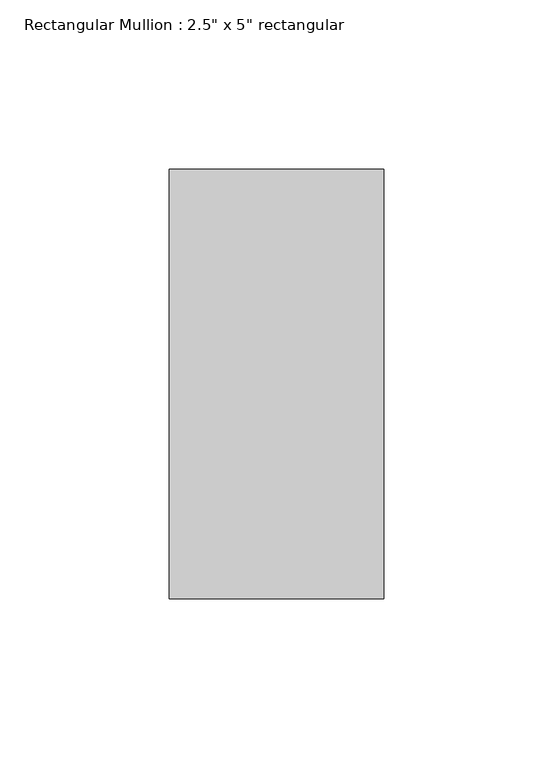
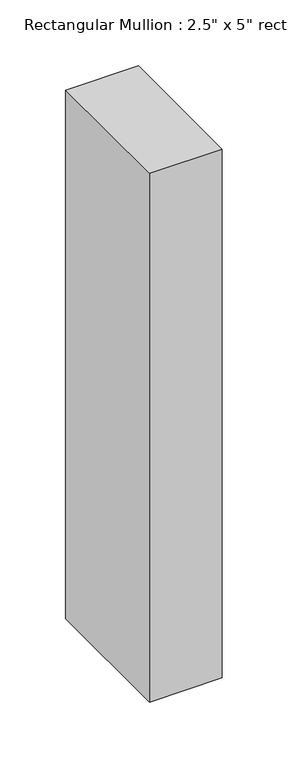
"""IFC4 building model written with IfcOpenShell, lengths in millimetres: member geometry."""

from ifc_helpers import new_model, si_unit, frame, origin, place, context, project, spatial, polyline, outline, extrude, source, transform, mapped, element, save


def member_757d0d80(model_context):
    return source(origin(), model_context, "Body", "SweptSolid", [
        extrude(outline(polyline([(31.75, 63.5), (31.75, -63.5), (-31.75, -63.5), (-31.75, 63.5), (31.75, 63.5)])), frame((0.0, 0.0, -488.95), z_axis=(0.0, 0.0, 1.0), x_axis=(1.0, 0.0, 0.0)), (0.0, 0.0, 1.0), 488.95),
    ])


if __name__ == "__main__":
    model = new_model("IFC4")
    model_context = context("Model", 3, world=origin())
    ifc_project = project(units=[si_unit("LENGTHUNIT", "METRE", prefix="MILLI")], contexts=[model_context])
    site = spatial("IfcSite", under=ifc_project)
    building = spatial("IfcBuilding", under=site)
    placement = place(None, origin())
    member_shape = member_757d0d80(model_context)
    element("IfcMember", 1, ObjectType="Rectangular Mullion : 2.5\" x 5\" rectangular", at=placement, inside=building, context=model_context, shape_type="MappedRepresentation", body=[
        mapped(member_shape, transform((0.0, 0.0, 0.0), x_axis=(1.0, 0.0, 0.0), y_axis=(0.0, 1.0, 0.0), z_axis=(0.0, 0.0, 1.0))),
    ])
    save(model, "model.ifc")
